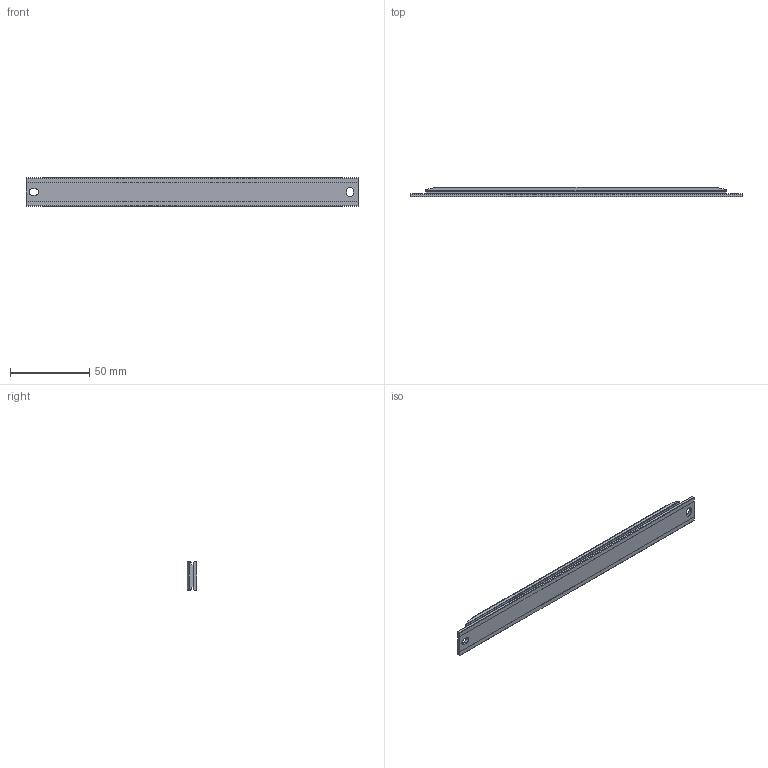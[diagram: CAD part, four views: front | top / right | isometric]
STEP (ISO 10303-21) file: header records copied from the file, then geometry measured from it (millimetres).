
FILE_DESCRIPTION (( 'STEP AP214' ), '1' );
FILE_NAME ('HLMScale.ScaleLength210.STEP', '2023-02-07T05:55:27', ( '' ), ( '' ), 'SwSTEP 2.0', 'SolidWorks 2020', '' );
FILE_SCHEMA (( 'AUTOMOTIVE_DESIGN' ));
Length unit declared in the file: millimetre
Products named in the file (1): HLMScale.ScaleLength210
Bounding box: 210 x 6.08 x 18 mm (x, y, z)
Volume: 19798.3 mm3; surface area: 11416.8 mm2
Topology: 1 solids, 1 shells, 56 faces, 149 edges, 98 vertices
Faces by surface type: plane 31, cylinder 25
Entity records: 1857 total; most frequent: CARTESIAN_POINT 412, ORIENTED_EDGE 298, DIRECTION 285, EDGE_CURVE 149, LINE 103, VECTOR 103, VERTEX_POINT 98, AXIS2_PLACEMENT_3D 91
